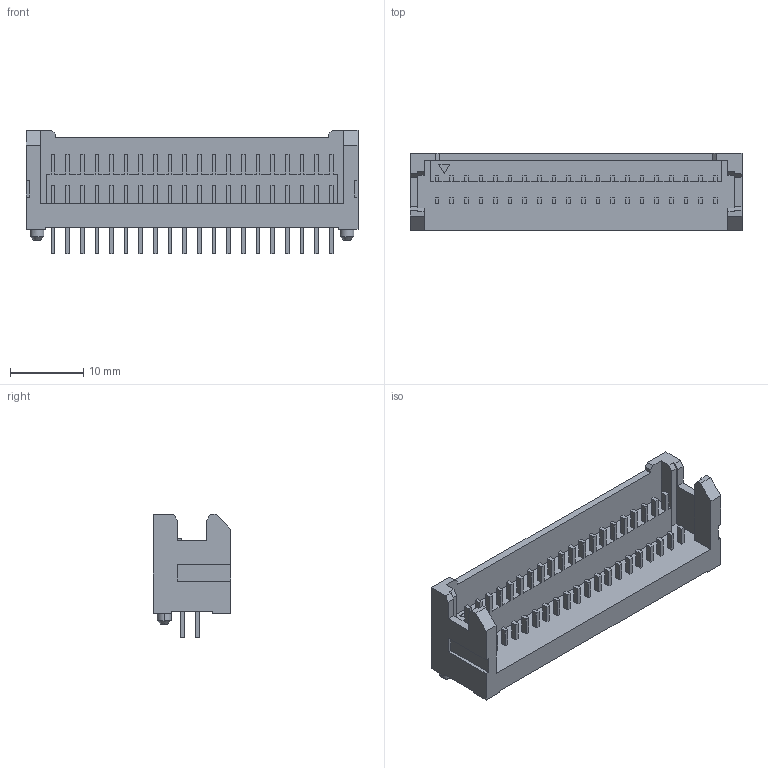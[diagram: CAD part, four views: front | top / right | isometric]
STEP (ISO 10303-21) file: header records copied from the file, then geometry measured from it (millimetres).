
FILE_DESCRIPTION(('CoCreate Modeling STEP Export'),'2;1');
FILE_NAME('P3D163_FBC11-040-1-B.stp','2017-06-23T17:42:43',(''),(''),'CoCreate Modeling STEP processor for AP214 (Solid Model)','CoCreate Modeling 17.0B 09-Oct-2010 (C) Parametric Technology GmbH','');
FILE_SCHEMA(('AUTOMOTIVE_DESIGN { 1 0 10303 214 1 1 1 1 }'));
Length unit declared in the file: millimetre
Products named in the file (2): FBC11-040-1-B
Assembly tree (1 placements, depth 2):
  FBC11-040-1-B
    FBC11-040-1-B
Bounding box: 45.3 x 10.6 x 16.8 mm (x, y, z)
Volume: 2288.6 mm3; surface area: 3409.9 mm2
Topology: 1 solids, 1 shells, 472 faces, 1223 edges, 816 vertices
Faces by surface type: plane 464, cylinder 4, cone 4
Entity records: 13796 total; most frequent: ORIENTED_EDGE 2446, CARTESIAN_POINT 2430, DIRECTION 2068, EDGE_CURVE 1223, VECTOR 1160, LINE 1160, VERTEX_POINT 816, EDGE_LOOP 535
